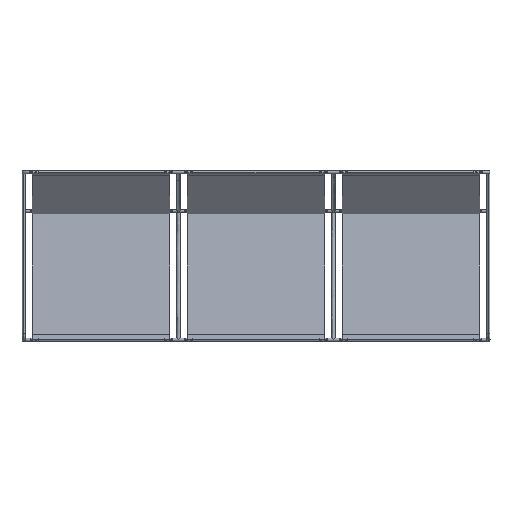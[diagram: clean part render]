
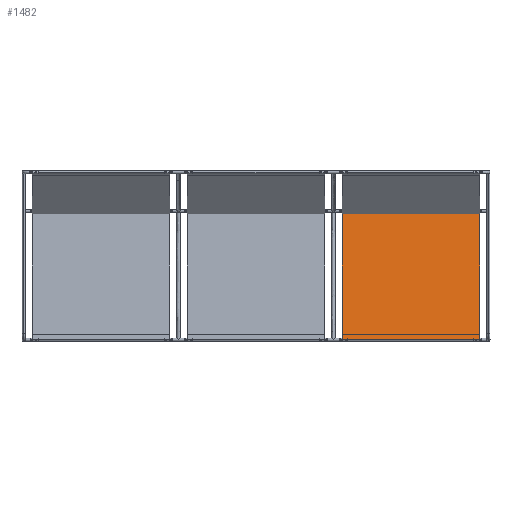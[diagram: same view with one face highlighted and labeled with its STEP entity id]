
A CAD part, top view. The second image highlights one B-rep face of the part: STEP entity #1482.
In plain terms, the highlighted planar face has unit normal (0, -0.131, -0.991).
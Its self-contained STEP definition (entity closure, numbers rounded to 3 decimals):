
#335=(
BOUNDED_CURVE()
B_SPLINE_CURVE(1,(#10701,#10702),.UNSPECIFIED.,.F.,.F.)
B_SPLINE_CURVE_WITH_KNOTS((2,2),(0.,685.),.UNSPECIFIED.)
CURVE()
GEOMETRIC_REPRESENTATION_ITEM()
RATIONAL_B_SPLINE_CURVE((1.,1.))
REPRESENTATION_ITEM('')
);
#1482=ADVANCED_FACE('',(#2071),#9681,.T.);
#2071=FACE_OUTER_BOUND('',#2660,.T.);
#2660=EDGE_LOOP('',(#3348,#3349,#3350,#3351));
#3348=ORIENTED_EDGE('',*,*,#6385,.T.);
#3349=ORIENTED_EDGE('',*,*,#6386,.T.);
#3350=ORIENTED_EDGE('',*,*,#6387,.F.);
#3351=ORIENTED_EDGE('',*,*,#6383,.F.);
#6383=EDGE_CURVE('',#8759,#8760,#335,.T.);
#6385=EDGE_CURVE('',#8759,#8761,#7953,.T.);
#6386=EDGE_CURVE('',#8761,#8762,#7954,.T.);
#6387=EDGE_CURVE('',#8760,#8762,#7955,.T.);
#7953=B_SPLINE_CURVE_WITH_KNOTS('',1,(#10714,#10715),.UNSPECIFIED.,.F.,
 .F.,(2,2),(85.432,741.692),.UNSPECIFIED.);
#7954=B_SPLINE_CURVE_WITH_KNOTS('',1,(#10716,#10717),.UNSPECIFIED.,.F.,
 .F.,(2,2),(0.,685.),.UNSPECIFIED.);
#7955=B_SPLINE_CURVE_WITH_KNOTS('',1,(#10718,#10719),.UNSPECIFIED.,.F.,
 .F.,(2,2),(85.432,741.692),.UNSPECIFIED.);
#8759=VERTEX_POINT('',#10676);
#8760=VERTEX_POINT('',#10677);
#8761=VERTEX_POINT('',#10678);
#8762=VERTEX_POINT('',#10679);
#9681=PLANE('',#9840);
#9840=AXIS2_PLACEMENT_3D('',#10670,#10248,$);
#10248=DIRECTION('',(0.,-0.131,-0.991));
#10670=CARTESIAN_POINT('',(-1605.175,19.109,-1396.489));
#10676=CARTESIAN_POINT('',(-1605.175,19.109,-1396.489));
#10677=CARTESIAN_POINT('',(-920.175,19.109,-1396.489));
#10678=CARTESIAN_POINT('',(-1605.175,643.545,-1478.971));
#10679=CARTESIAN_POINT('',(-920.175,643.545,-1478.971));
#10701=CARTESIAN_POINT('',(-1605.175,19.109,-1396.489));
#10702=CARTESIAN_POINT('',(-920.175,19.109,-1396.489));
#10714=CARTESIAN_POINT('',(-1605.175,19.109,-1396.489));
#10715=CARTESIAN_POINT('',(-1605.175,643.545,-1478.971));
#10716=CARTESIAN_POINT('',(-1605.175,643.545,-1478.971));
#10717=CARTESIAN_POINT('',(-920.175,643.545,-1478.971));
#10718=CARTESIAN_POINT('',(-920.175,19.109,-1396.489));
#10719=CARTESIAN_POINT('',(-920.175,643.545,-1478.971));
